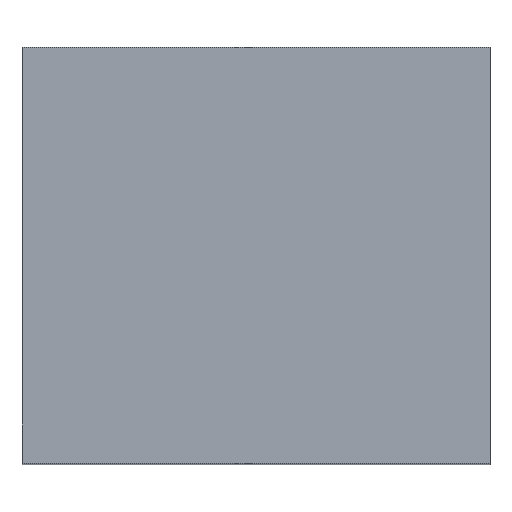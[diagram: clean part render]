
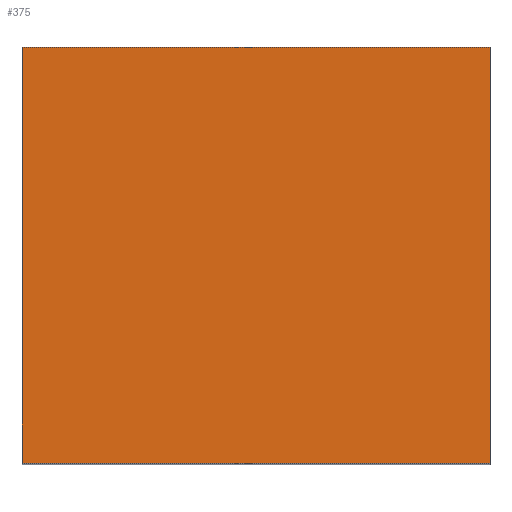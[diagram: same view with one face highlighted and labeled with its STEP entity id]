
A CAD part, top view. The second image highlights one B-rep face of the part: STEP entity #375.
In plain terms, the highlighted planar face has unit normal (0, 0, 1).
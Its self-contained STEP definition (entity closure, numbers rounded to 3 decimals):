
#250 = CARTESIAN_POINT ( 'NONE',  ( 2.7, 2.4, 12. ) ) ;
#251 = VERTEX_POINT ( 'NONE', #250 ) ;
#258 = CARTESIAN_POINT ( 'NONE',  ( 2.7, -2.4, 12. ) ) ;
#259 = VERTEX_POINT ( 'NONE', #258 ) ;
#260 = CARTESIAN_POINT ( 'NONE',  ( 2.7, -2.4, 12. ) ) ;
#261 = DIRECTION ( 'NONE',  ( 0., 1., 0. ) ) ;
#262 = VECTOR ( 'NONE', #261, 1000. ) ;
#263 = LINE ( 'NONE', #260, #262 ) ;
#264 = EDGE_CURVE ( 'NONE', #259, #251, #263, .T. ) ;
#288 = CARTESIAN_POINT ( 'NONE',  ( -2.7, 2.4, 12. ) ) ;
#289 = VERTEX_POINT ( 'NONE', #288 ) ;
#296 = CARTESIAN_POINT ( 'NONE',  ( -2.7, 2.4, 12. ) ) ;
#297 = DIRECTION ( 'NONE',  ( -1., 0., 0. ) ) ;
#298 = VECTOR ( 'NONE', #297, 1000. ) ;
#299 = LINE ( 'NONE', #296, #298 ) ;
#300 = EDGE_CURVE ( 'NONE', #251, #289, #299, .T. ) ;
#319 = CARTESIAN_POINT ( 'NONE',  ( -2.7, -2.4, 12. ) ) ;
#320 = VERTEX_POINT ( 'NONE', #319 ) ;
#327 = CARTESIAN_POINT ( 'NONE',  ( -2.7, -2.4, 12. ) ) ;
#328 = DIRECTION ( 'NONE',  ( 0., -1., 0. ) ) ;
#329 = VECTOR ( 'NONE', #328, 1000. ) ;
#330 = LINE ( 'NONE', #327, #329 ) ;
#331 = EDGE_CURVE ( 'NONE', #289, #320, #330, .T. ) ;
#349 = CARTESIAN_POINT ( 'NONE',  ( -2.7, -2.4, 12. ) ) ;
#350 = DIRECTION ( 'NONE',  ( 1., 0., 0. ) ) ;
#351 = VECTOR ( 'NONE', #350, 1000. ) ;
#352 = LINE ( 'NONE', #349, #351 ) ;
#353 = EDGE_CURVE ( 'NONE', #320, #259, #352, .T. ) ;
#364 = ORIENTED_EDGE ( 'NONE', *, *, #264, .T. ) ;
#365 = ORIENTED_EDGE ( 'NONE', *, *, #300, .T. ) ;
#366 = ORIENTED_EDGE ( 'NONE', *, *, #331, .T. ) ;
#367 = ORIENTED_EDGE ( 'NONE', *, *, #353, .T. ) ;
#368 = EDGE_LOOP ( 'NONE', ( #364, #365, #366, #367 ) ) ;
#369 = FACE_OUTER_BOUND ( 'NONE', #368, .T. ) ;
#370 = CARTESIAN_POINT ( 'NONE',  ( 0., 0., 12. ) ) ;
#371 = DIRECTION ( 'NONE',  ( 0., 0., -1. ) ) ;
#372 = DIRECTION ( 'NONE',  ( 0., 1., 0. ) ) ;
#373 = AXIS2_PLACEMENT_3D ( 'NONE', #370, #371, #372 ) ;
#374 = PLANE ( 'NONE', #373 ) ;
#375 = ADVANCED_FACE ( 'NONE', ( #369 ), #374, .F. ) ;
